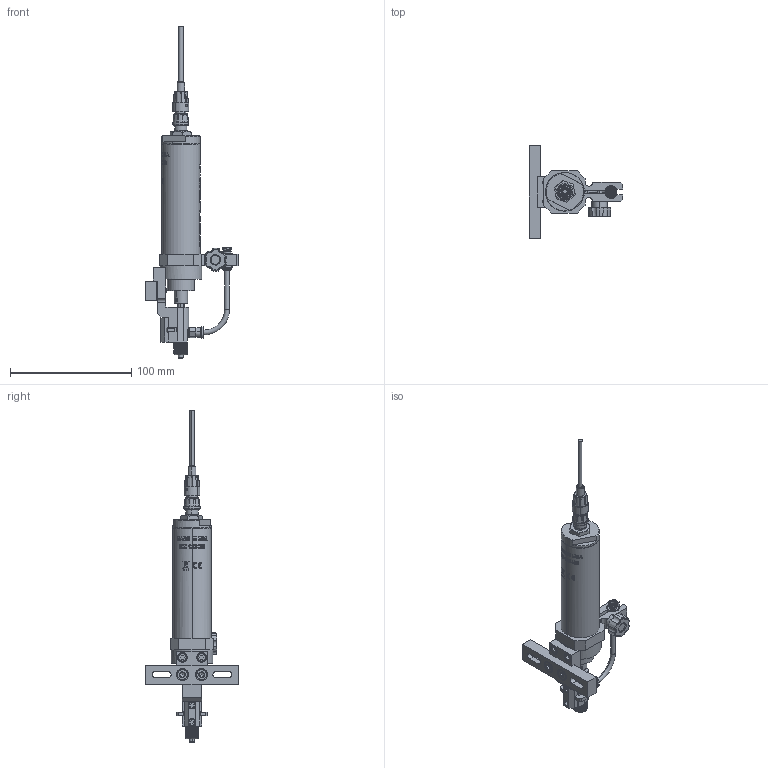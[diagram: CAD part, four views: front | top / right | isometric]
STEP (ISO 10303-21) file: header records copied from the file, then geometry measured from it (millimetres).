
FILE_DESCRIPTION (( 'STEP AP214' ), '1' );
FILE_NAME ('NORDSONEFD-7029746 AUGER VALVE FIX HD BRUSH 16.STEP', '2018-12-18T07:59:21', ( '' ), ( '' ), 'SwSTEP 2.0', 'SolidWorks 2018', '' );
FILE_SCHEMA (( 'AUTOMOTIVE_DESIGN' ));
Length unit declared in the file: inch
Products named in the file (1): NORDSONEFD-7029746  AUGER VALVE FIX HD BRUSH 16
Bounding box: 76.85 x 76.2 x 273.92 mm (x, y, z)
Volume: 78692.8 mm3; surface area: 63849.6 mm2
Topology: 36 solids, 36 shells, 1833 faces, 4668 edges, 3003 vertices
Faces by surface type: plane 708, cylinder 506, bspline 346, cone 201, torus 70, sphere 2
Entity records: 86793 total; most frequent: CARTESIAN_POINT 42480, ORIENTED_EDGE 9284, DIRECTION 7523, EDGE_CURVE 4642, VERTEX_POINT 3001, AXIS2_PLACEMENT_3D 2917, EDGE_LOOP 2037, FACE_OUTER_BOUND 1833
